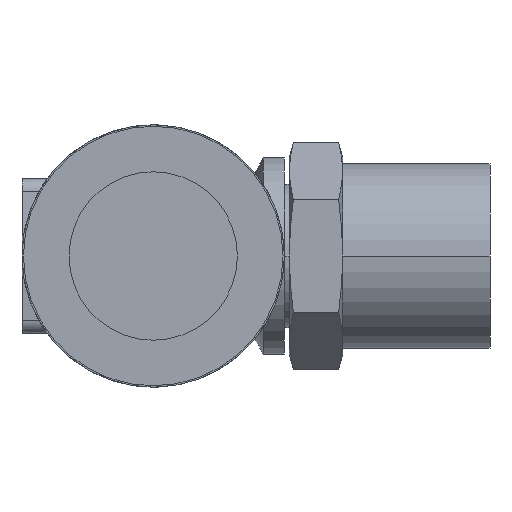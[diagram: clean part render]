
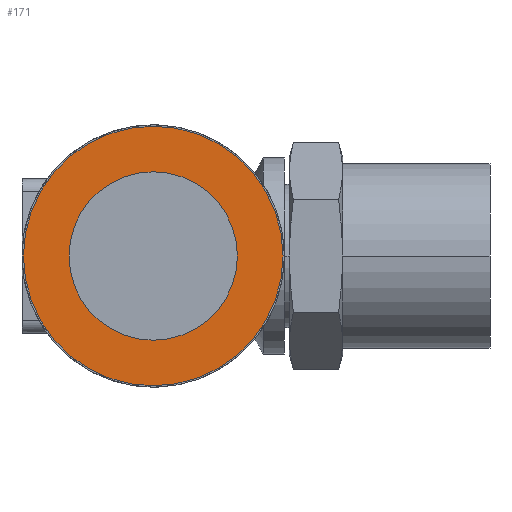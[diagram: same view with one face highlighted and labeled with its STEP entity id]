
A CAD part, left-side view. The second image highlights one B-rep face of the part: STEP entity #171.
In plain terms, the highlighted planar face has unit normal (-1, 0, 0).
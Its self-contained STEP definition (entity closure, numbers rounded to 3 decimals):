
#171 = ADVANCED_FACE( '', ( #375, #376 ), #377, .T. );
#375 = FACE_BOUND( '', #580, .T. );
#376 = FACE_OUTER_BOUND( '', #581, .T. );
#377 = PLANE( '', #582 );
#580 = EDGE_LOOP( '', ( #1323, #1324 ) );
#581 = EDGE_LOOP( '', ( #1325, #1326 ) );
#582 = AXIS2_PLACEMENT_3D( '', #1327, #1328, #1329 );
#1323 = ORIENTED_EDGE( '', *, *, #1416, .T. );
#1324 = ORIENTED_EDGE( '', *, *, #1412, .T. );
#1325 = ORIENTED_EDGE( '', *, *, #1333, .T. );
#1326 = ORIENTED_EDGE( '', *, *, #1557, .T. );
#1327 = CARTESIAN_POINT( '', ( -22.6, 23.875, 0. ) );
#1328 = DIRECTION( '', ( -1., 0., 0. ) );
#1329 = DIRECTION( '', ( 0., 1., 0. ) );
#1333 = EDGE_CURVE( '', #1559, #1563, #1565, .T. );
#1412 = EDGE_CURVE( '', #1716, #1713, #1717, .T. );
#1416 = EDGE_CURVE( '', #1713, #1716, #1722, .T. );
#1557 = EDGE_CURVE( '', #1563, #1559, #1929, .T. );
#1559 = VERTEX_POINT( '', #1931 );
#1563 = VERTEX_POINT( '', #1936 );
#1565 = CIRCLE( '', #1939, 9.25 );
#1713 = VERTEX_POINT( '', #2266 );
#1716 = VERTEX_POINT( '', #2270 );
#1717 = CIRCLE( '', #2271, 6. );
#1722 = CIRCLE( '', #2277, 6. );
#1929 = CIRCLE( '', #2958, 9.25 );
#1931 = CARTESIAN_POINT( '', ( -22.6, 28.5, 0. ) );
#1936 = CARTESIAN_POINT( '', ( -22.6, 10., 0. ) );
#1939 = AXIS2_PLACEMENT_3D( '', #2964, #2965, #2966 );
#2266 = CARTESIAN_POINT( '', ( -22.6, 25.25, 0. ) );
#2270 = CARTESIAN_POINT( '', ( -22.6, 13.25, 0. ) );
#2271 = AXIS2_PLACEMENT_3D( '', #3102, #3103, #3104 );
#2277 = AXIS2_PLACEMENT_3D( '', #3112, #3113, #3114 );
#2958 = AXIS2_PLACEMENT_3D( '', #3330, #3331, #3332 );
#2964 = CARTESIAN_POINT( '', ( -22.6, 19.25, 0. ) );
#2965 = DIRECTION( '', ( -1., 0., 0. ) );
#2966 = DIRECTION( '', ( 0., 1., 0. ) );
#3102 = CARTESIAN_POINT( '', ( -22.6, 19.25, 0. ) );
#3103 = DIRECTION( '', ( 1., 0., 0. ) );
#3104 = DIRECTION( '', ( 0., 1., 0. ) );
#3112 = CARTESIAN_POINT( '', ( -22.6, 19.25, 0. ) );
#3113 = DIRECTION( '', ( 1., 0., 0. ) );
#3114 = DIRECTION( '', ( 0., 1., 0. ) );
#3330 = CARTESIAN_POINT( '', ( -22.6, 19.25, 0. ) );
#3331 = DIRECTION( '', ( -1., 0., 0. ) );
#3332 = DIRECTION( '', ( 0., 1., 0. ) );
